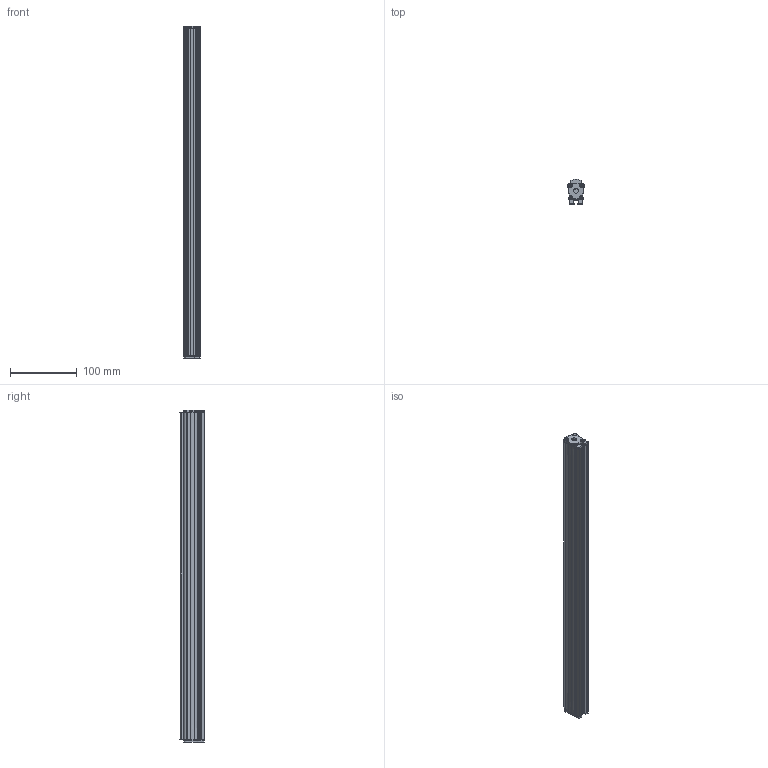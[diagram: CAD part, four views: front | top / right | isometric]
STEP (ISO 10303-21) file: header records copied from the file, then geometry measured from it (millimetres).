
FILE_DESCRIPTION(('STEP AP214'),'1');
FILE_NAME('lin+op 470.stp','2021-02-15T14:45:39',('Blanc'),('Phlox'),'Spatial InterOp 3D',' ',' ');
FILE_SCHEMA(('AUTOMOTIVE_DESIGN { 1 0 10303 214 1 1 1 1 }'));
Length unit declared in the file: inch
Products named in the file (1): Pièce_83634808
Bounding box: 24.54 x 37.28 x 498.29 mm (x, y, z)
Volume: 182385.3 mm3; surface area: 150653.6 mm2
Topology: 6 solids, 6 shells, 380 faces, 1090 edges, 718 vertices
Faces by surface type: cylinder 211, plane 103, bspline 36, cone 16, extrusion 14
Entity records: 25930 total; most frequent: CARTESIAN_POINT 7944, ORIENTED_EDGE 2180, DIRECTION 2086, STYLED_ITEM 1345, PRESENTATION_STYLE_ASSIGNMENT 1345, COLOUR_RGB 1345, EDGE_CURVE 1090, CURVE_STYLE 959
